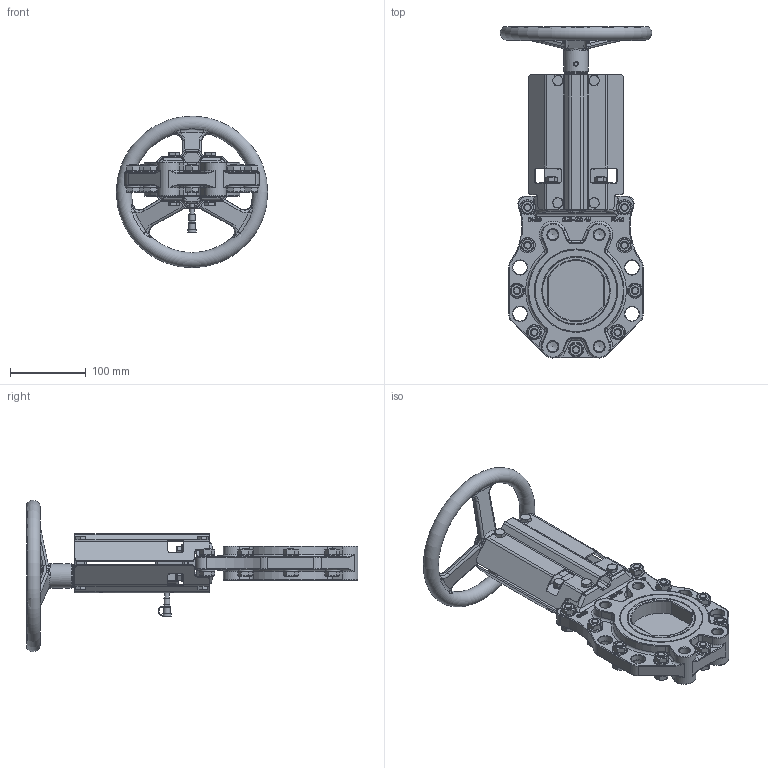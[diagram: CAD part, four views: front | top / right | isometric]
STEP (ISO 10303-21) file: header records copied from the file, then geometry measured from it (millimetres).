
FILE_DESCRIPTION(/* description */ (''),/* implementation_level */ '2;1');
FILE_NAME(/* name */ 'Non-rising stem knife gate valve with handwheel DN80.stp',/* time_stamp */ '2025-04-02T09:43:14+08:00',/* author */ (''),/* organization */ (''),/* preprocessor_version */ 'ST-DEVELOPER v15',/* originating_system */ 'SIEMENS PLM Software NX 10.0',/* authorisation */ '');
FILE_SCHEMA (('AP203_CONFIGURATION_CONTROLLED_3D_DESIGN_OF_MECHANICAL_PARTS_AND_ASSEMBLIES_MIM_LF { 1 0 10303 403 2 1 2}'));
Products named in the file (1): Admi271CEB492f0z
Bounding box: 200 x 438.41 x 200 mm (x, y, z)
Volume: 1451544.6 mm3; surface area: 337882 mm2
Topology: 1 solids, 21 shells, 2669 faces, 6546 edges, 4041 vertices
Faces by surface type: plane 1062, cylinder 537, bspline 437, extrusion 223, cone 221, torus 157, sphere 32
Full cylindrical faces by diameter (mm): 6 x3, 7.323 x2, 8 x5, 8.4 x6, 9 x1, 9.188 x9, 10 x9, 10.5 x18, 11.4 x10, 11.5 x1, 13.835 x8, 15.4 x9, 15.5 x1, 16 x8, 19 x8, 20 x19, 30 x3, 32 x1
Entity records: 85563 total; most frequent: CARTESIAN_POINT 28442, ORIENTED_EDGE 12340, DIRECTION 9953, EDGE_CURVE 6170, VERTEX_POINT 3952, AXIS2_PLACEMENT_3D 3534, EDGE_LOOP 3152, VECTOR 2885
